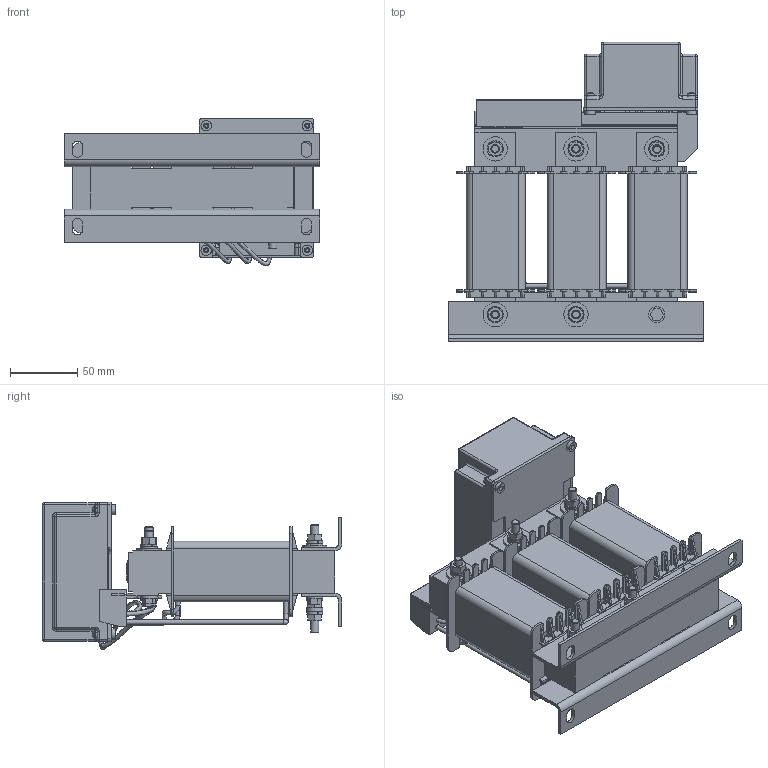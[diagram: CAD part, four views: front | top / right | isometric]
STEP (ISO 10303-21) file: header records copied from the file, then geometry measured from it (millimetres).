
FILE_DESCRIPTION((''),'2;1');
FILE_NAME('K:\PQ\Projects\000062 STEFFI Sinewave filter range\STEFFI FN5040\FN5040-17-83(810249)\70_Realisation_Rev 0\702_MechanicalDesign\3D\assembly.stp','2012-09-06T09:33:04',('jingli.yang'),(''),'Autodesk Inventor 2010','Autodesk Inventor 2010','');
FILE_SCHEMA(('AUTOMOTIVE_DESIGN { 1 0 10303 214 1 1 1 1 }'));
Length unit declared in the file: millimetre
Products named in the file (1): 零件3
Bounding box: 190 x 222.07 x 109.51 mm (x, y, z)
Volume: 974240.4 mm3; surface area: 297740.3 mm2
Topology: 1 solids, 4 shells, 2061 faces, 5423 edges, 3385 vertices
Faces by surface type: plane 1026, bspline 537, cylinder 369, torus 79, sphere 28, cone 22
Full cylindrical faces by diameter (mm): 3 x4, 3.2 x30, 3.8 x4, 6 x27, 6.4 x12, 7.689 x4, 7.8 x6, 8 x6, 8.4 x3, 8.5 x6, 9 x1, 10 x1, 12 x7, 18 x2
Entity records: 102002 total; most frequent: CARTESIAN_POINT 52463, ORIENTED_EDGE 10224, DIRECTION 9028, EDGE_CURVE 5115, VECTOR 3582, LINE 3582, VERTEX_POINT 3300, AXIS2_PLACEMENT_3D 2723
